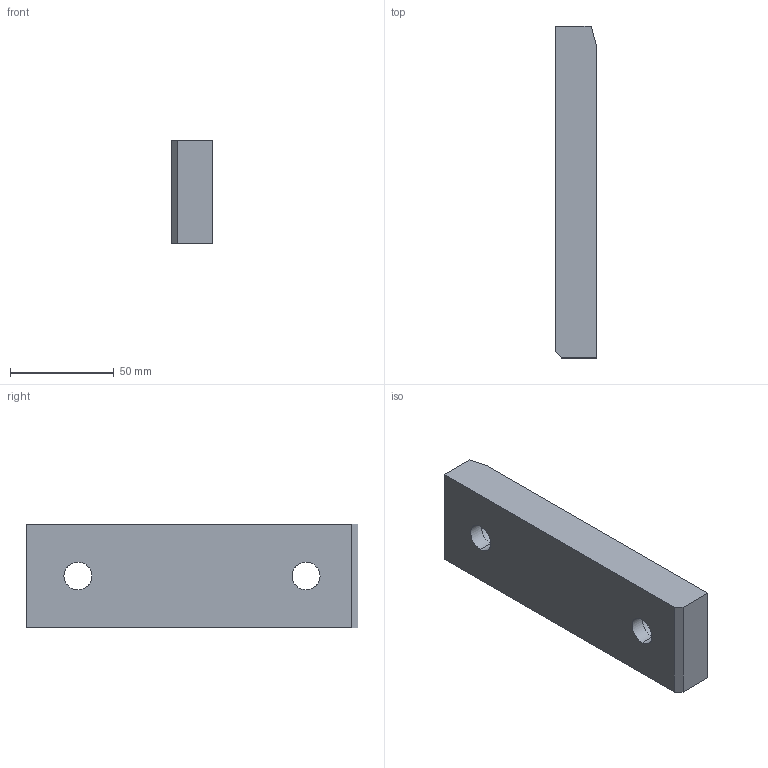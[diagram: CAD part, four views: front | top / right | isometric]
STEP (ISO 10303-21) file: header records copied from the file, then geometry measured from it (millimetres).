
FILE_DESCRIPTION(('CATIA V5 STEP Exchange'),'2;1');
FILE_NAME('C:\Users\borellobunino\Desktop\3D X SITO CF\A915\GSB_OILLESS_G22501050160\A915-50X160.stp','2019-07-14T12:39:34+00:00',('none'),('none'),'CATIA Version 5 Release 20 GA (IN-10)','CATIA V5 STEP AP203','none');
FILE_SCHEMA(('CONFIG_CONTROL_DESIGN'));
Length unit declared in the file: millimetre
Products named in the file (1): A915-50X160
Bounding box: 20 x 160 x 50 mm (x, y, z)
Volume: 148673.1 mm3; surface area: 25660.6 mm2
Topology: 1 solids, 1 shells, 23 faces, 73 edges, 54 vertices
Faces by surface type: plane 10, cylinder 9, torus 4
Entity records: 1057 total; most frequent: CARTESIAN_POINT 375, ORIENTED_EDGE 146, DIRECTION 103, EDGE_CURVE 73, AXIS2_PLACEMENT_3D 54, VERTEX_POINT 54, CIRCLE 30, EDGE_LOOP 29
